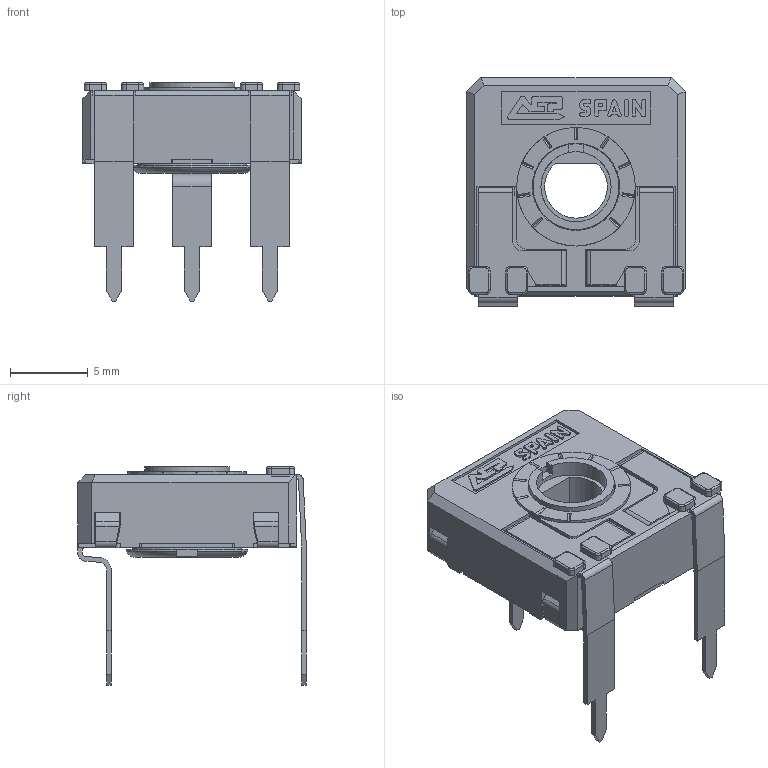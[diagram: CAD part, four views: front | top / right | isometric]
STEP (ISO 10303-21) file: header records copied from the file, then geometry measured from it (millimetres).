
FILE_DESCRIPTION(/* description */ (''),/* implementation_level */ '2;1');
FILE_NAME(/* name */ '\\SERVERACP\intercambio\Ignacio Santa Cecilia\Nueva WEB 2025\CA14 - CE14\CA14FVL12,5 RT-RO.stp',/* time_stamp */ '2025-06-12T09:30:24+02:00',/* author */ ('CEM'),/* organization */ (''),/* preprocessor_version */ 'ST-DEVELOPER v17',/* originating_system */ 'Autodesk Inventor 2018',/* authorisation */ '');
FILE_SCHEMA (('AUTOMOTIVE_DESIGN { 1 0 10303 214 3 1 1 }'));
Length unit declared in the file: millimetre
Products named in the file (1): CARCASA CA14 PGA
Bounding box: 14 x 14.65 x 14 mm (x, y, z)
Volume: 541.7 mm3; surface area: 1547.9 mm2
Topology: 1 solids, 1 shells, 680 faces, 1926 edges, 1242 vertices
Faces by surface type: plane 501, cylinder 142, torus 23, bspline 8, cone 6
Full cylindrical faces by diameter (mm): 4.5 x1, 5.5 x1, 5.6 x1, 5.752 x1, 6.8 x1, 7.6 x1
Entity records: 22266 total; most frequent: CARTESIAN_POINT 4146, ORIENTED_EDGE 3852, DIRECTION 3597, EDGE_CURVE 1926, LINE 1511, VECTOR 1511, VERTEX_POINT 1242, AXIS2_PLACEMENT_3D 1043
